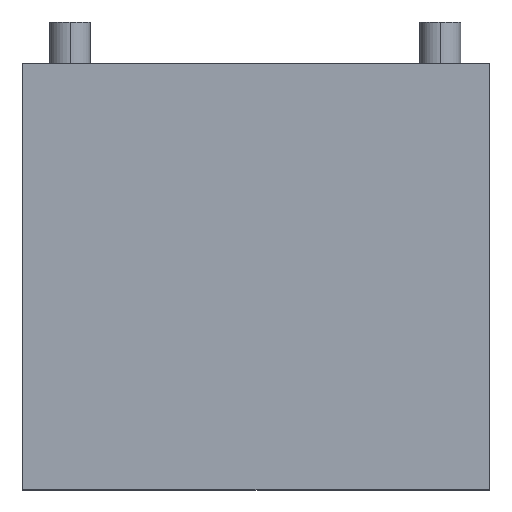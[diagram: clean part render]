
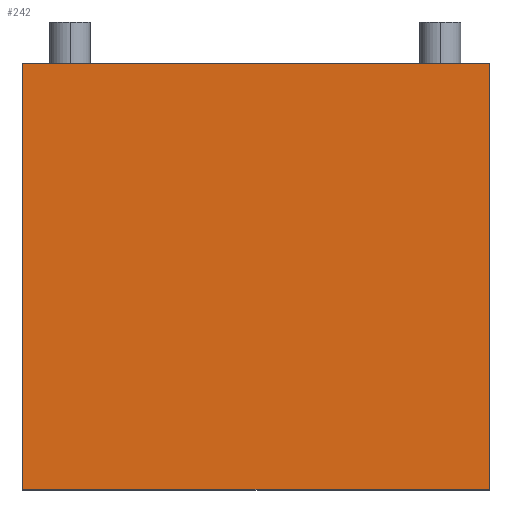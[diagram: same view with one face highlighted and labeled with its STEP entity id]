
A CAD part, top view. The second image highlights one B-rep face of the part: STEP entity #242.
In plain terms, the highlighted planar face has unit normal (0, 0, 1).
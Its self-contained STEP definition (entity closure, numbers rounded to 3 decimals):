
#2 = DIRECTION ( 'NONE',  ( -1., 0., 0. ) ) ;
#6 = CARTESIAN_POINT ( 'NONE',  ( 111.2, 203., 86. ) ) ;
#22 = ORIENTED_EDGE ( 'NONE', *, *, #256, .F. ) ;
#34 = LINE ( 'NONE', #6, #136 ) ;
#91 = VECTOR ( 'NONE', #130, 1000. ) ;
#94 = EDGE_CURVE ( 'NONE', #111, #316, #366, .T. ) ;
#102 = LINE ( 'NONE', #243, #91 ) ;
#103 = CARTESIAN_POINT ( 'NONE',  ( -111.2, 0., 86. ) ) ;
#111 = VERTEX_POINT ( 'NONE', #342 ) ;
#115 = DIRECTION ( 'NONE',  ( 1., 0., 0. ) ) ;
#130 = DIRECTION ( 'NONE',  ( 0., -1., 0. ) ) ;
#132 = CARTESIAN_POINT ( 'NONE',  ( 111.2, 0., 86. ) ) ;
#136 = VECTOR ( 'NONE', #275, 1000. ) ;
#154 = FACE_OUTER_BOUND ( 'NONE', #358, .T. ) ;
#176 = CARTESIAN_POINT ( 'NONE',  ( -111.2, 203., 86. ) ) ;
#177 = VERTEX_POINT ( 'NONE', #103 ) ;
#183 = CARTESIAN_POINT ( 'NONE',  ( -111.2, 0., 86. ) ) ;
#187 = PLANE ( 'NONE',  #298 ) ;
#206 = VECTOR ( 'NONE', #278, 1000. ) ;
#225 = VERTEX_POINT ( 'NONE', #132 ) ;
#228 = CARTESIAN_POINT ( 'NONE',  ( 111.2, 203., 86. ) ) ;
#242 = ADVANCED_FACE ( 'NONE', ( #154 ), #187, .F. ) ;
#243 = CARTESIAN_POINT ( 'NONE',  ( -111.2, 203., 86. ) ) ;
#245 = VECTOR ( 'NONE', #115, 1000. ) ;
#249 = EDGE_CURVE ( 'NONE', #177, #225, #308, .T. ) ;
#251 = DIRECTION ( 'NONE',  ( 0., 0., -1. ) ) ;
#256 = EDGE_CURVE ( 'NONE', #316, #225, #34, .T. ) ;
#258 = ORIENTED_EDGE ( 'NONE', *, *, #249, .T. ) ;
#275 = DIRECTION ( 'NONE',  ( 0., -1., 0. ) ) ;
#278 = DIRECTION ( 'NONE',  ( 1., 0., 0. ) ) ;
#279 = EDGE_CURVE ( 'NONE', #111, #177, #102, .T. ) ;
#294 = ORIENTED_EDGE ( 'NONE', *, *, #94, .F. ) ;
#298 = AXIS2_PLACEMENT_3D ( 'NONE', #312, #251, #2 ) ;
#299 = ORIENTED_EDGE ( 'NONE', *, *, #279, .T. ) ;
#308 = LINE ( 'NONE', #183, #206 ) ;
#312 = CARTESIAN_POINT ( 'NONE',  ( -111.2, 203., 86. ) ) ;
#316 = VERTEX_POINT ( 'NONE', #228 ) ;
#342 = CARTESIAN_POINT ( 'NONE',  ( -111.2, 203., 86. ) ) ;
#358 = EDGE_LOOP ( 'NONE', ( #258, #22, #294, #299 ) ) ;
#366 = LINE ( 'NONE', #176, #245 ) ;
